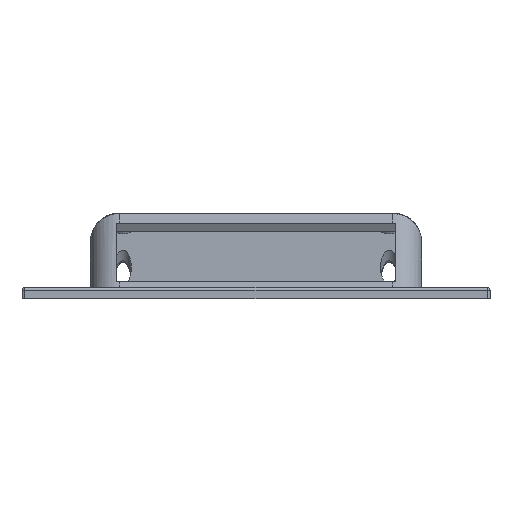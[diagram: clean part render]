
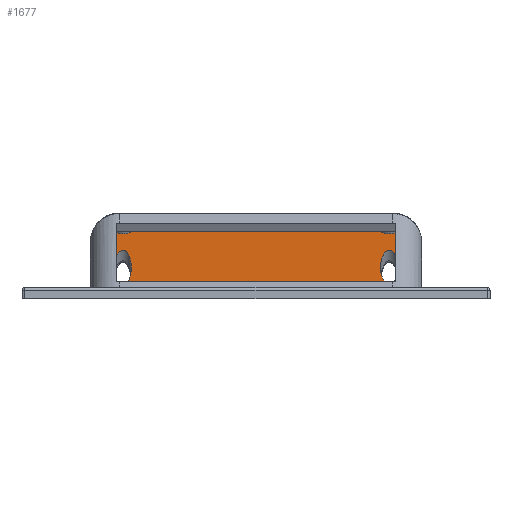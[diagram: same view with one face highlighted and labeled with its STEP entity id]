
A CAD part, front view. The second image highlights one B-rep face of the part: STEP entity #1677.
In plain terms, the highlighted planar face has unit normal (0, -1, 0).
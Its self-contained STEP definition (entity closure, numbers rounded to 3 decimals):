
#79=FACE_BOUND('',#355,.T.);
#80=FACE_BOUND('',#356,.T.);
#101=ELLIPSE('',#1755,6.,3.);
#102=ELLIPSE('',#1756,6.,3.);
#107=ELLIPSE('',#1764,6.,3.);
#108=ELLIPSE('',#1765,6.,3.);
#161=PLANE('',#1893);
#250=FACE_OUTER_BOUND('',#354,.T.);
#354=EDGE_LOOP('',(#1517,#1518,#1519,#1520));
#355=EDGE_LOOP('',(#1521,#1522));
#356=EDGE_LOOP('',(#1523,#1524));
#382=LINE('',#2493,#495);
#468=LINE('',#3424,#581);
#476=LINE('',#3438,#589);
#477=LINE('',#3439,#590);
#495=VECTOR('',#1944,10.);
#581=VECTOR('',#2366,10.);
#589=VECTOR('',#2382,10.);
#590=VECTOR('',#2383,10.);
#707=VERTEX_POINT('',#2490);
#708=VERTEX_POINT('',#2492);
#739=VERTEX_POINT('',#2615);
#740=VERTEX_POINT('',#2617);
#750=VERTEX_POINT('',#2700);
#751=VERTEX_POINT('',#2702);
#836=VERTEX_POINT('',#3421);
#837=VERTEX_POINT('',#3423);
#870=EDGE_CURVE('',#708,#707,#382,.T.);
#913=EDGE_CURVE('',#740,#739,#101,.T.);
#914=EDGE_CURVE('',#739,#740,#102,.T.);
#928=EDGE_CURVE('',#751,#750,#107,.T.);
#929=EDGE_CURVE('',#750,#751,#108,.T.);
#1072=EDGE_CURVE('',#836,#837,#468,.T.);
#1080=EDGE_CURVE('',#837,#707,#476,.T.);
#1081=EDGE_CURVE('',#708,#836,#477,.T.);
#1517=ORIENTED_EDGE('',*,*,#1080,.F.);
#1518=ORIENTED_EDGE('',*,*,#1072,.F.);
#1519=ORIENTED_EDGE('',*,*,#1081,.F.);
#1520=ORIENTED_EDGE('',*,*,#870,.T.);
#1521=ORIENTED_EDGE('',*,*,#928,.T.);
#1522=ORIENTED_EDGE('',*,*,#929,.T.);
#1523=ORIENTED_EDGE('',*,*,#913,.T.);
#1524=ORIENTED_EDGE('',*,*,#914,.T.);
#1677=ADVANCED_FACE('',(#250,#79,#80),#161,.T.);
#1755=AXIS2_PLACEMENT_3D('',#2618,#2027,#2028);
#1756=AXIS2_PLACEMENT_3D('',#2619,#2029,#2030);
#1764=AXIS2_PLACEMENT_3D('',#2703,#2048,#2049);
#1765=AXIS2_PLACEMENT_3D('',#2704,#2050,#2051);
#1893=AXIS2_PLACEMENT_3D('',#3437,#2380,#2381);
#1944=DIRECTION('',(1.,0.,0.));
#2027=DIRECTION('center_axis',(0.,1.,0.));
#2028=DIRECTION('ref_axis',(0.,0.,1.));
#2029=DIRECTION('center_axis',(0.,1.,0.));
#2030=DIRECTION('ref_axis',(0.,0.,1.));
#2048=DIRECTION('center_axis',(0.,1.,0.));
#2049=DIRECTION('ref_axis',(0.,0.,1.));
#2050=DIRECTION('center_axis',(0.,1.,0.));
#2051=DIRECTION('ref_axis',(0.,0.,1.));
#2366=DIRECTION('',(1.,0.,0.));
#2380=DIRECTION('center_axis',(0.,-1.,0.));
#2381=DIRECTION('ref_axis',(0.,0.,-1.));
#2382=DIRECTION('',(0.,0.,-1.));
#2383=DIRECTION('',(0.,0.,1.));
#2490=CARTESIAN_POINT('',(136.,140.,0.));
#2492=CARTESIAN_POINT('',(28.,140.,0.));
#2493=CARTESIAN_POINT('',(24.,140.,0.));
#2615=CARTESIAN_POINT('',(38.35,140.,11.005));
#2617=CARTESIAN_POINT('',(35.35,140.,5.005));
#2618=CARTESIAN_POINT('Origin',(35.35,140.,11.005));
#2619=CARTESIAN_POINT('Origin',(35.35,140.,11.005));
#2700=CARTESIAN_POINT('',(131.65,140.,11.005));
#2702=CARTESIAN_POINT('',(128.65,140.,5.005));
#2703=CARTESIAN_POINT('Origin',(128.65,140.,11.005));
#2704=CARTESIAN_POINT('Origin',(128.65,140.,11.005));
#3421=CARTESIAN_POINT('',(28.,140.,25.981));
#3423=CARTESIAN_POINT('',(136.,140.,25.981));
#3424=CARTESIAN_POINT('',(24.,140.,25.981));
#3437=CARTESIAN_POINT('Origin',(24.,140.,25.981));
#3438=CARTESIAN_POINT('',(136.,140.,18.551));
#3439=CARTESIAN_POINT('',(28.,140.,18.551));
